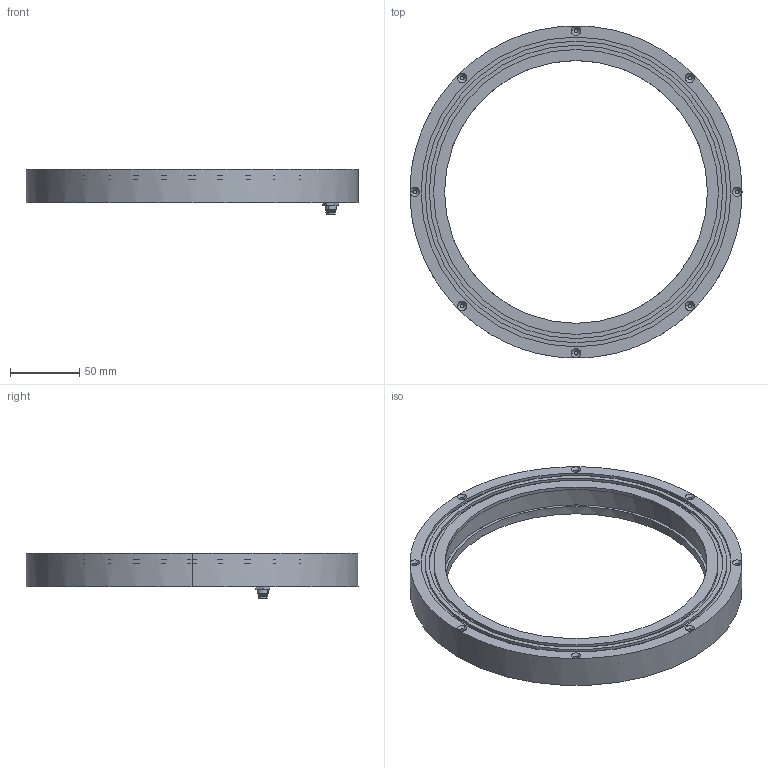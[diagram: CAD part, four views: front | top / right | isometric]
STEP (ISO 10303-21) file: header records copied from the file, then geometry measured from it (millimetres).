
FILE_DESCRIPTION(('STEP AP214'),'1');
FILE_NAME('Arcus 190 Kundenmodell.stp','2021-04-15T09:05:36',(' '),(' '),'Spatial InterOp 3D',' ',' ');
FILE_SCHEMA(('AUTOMOTIVE_DESIGN { 1 0 10303 214 1 1 1 1 }'));
Length unit declared in the file: metre
Products named in the file (1): Volumenkörper
Bounding box: 240 x 240 x 32.57 mm (x, y, z)
Volume: 236643.8 mm3; surface area: 136457.7 mm2
Topology: 1 solids, 5 shells, 404 faces, 961 edges, 596 vertices
Faces by surface type: cylinder 238, plane 94, cone 58, sphere 8, torus 6
Entity records: 12604 total; most frequent: DIRECTION 2309, CARTESIAN_POINT 2242, ORIENTED_EDGE 1870, AXIS2_PLACEMENT_3D 991, EDGE_CURVE 935, VERTEX_POINT 596, CIRCLE 586, EDGE_LOOP 481
